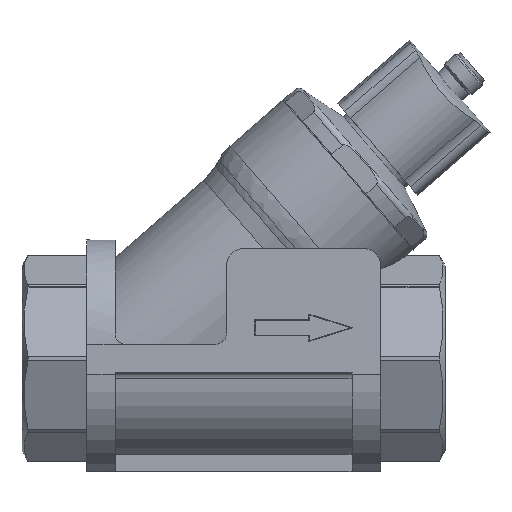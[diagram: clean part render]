
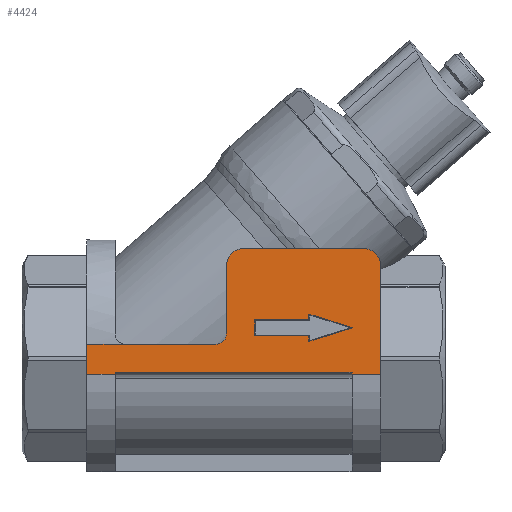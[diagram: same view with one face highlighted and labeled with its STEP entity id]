
A CAD part, top view. The second image highlights one B-rep face of the part: STEP entity #4424.
In plain terms, the highlighted planar face has unit normal (0, 0, 1).
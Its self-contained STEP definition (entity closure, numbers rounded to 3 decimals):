
#59=PLANE('',#4692);
#211=LINE('',#5882,#426);
#242=LINE('',#6139,#457);
#247=LINE('',#6170,#462);
#251=LINE('',#6202,#466);
#286=LINE('',#6516,#501);
#287=LINE('',#6519,#502);
#288=LINE('',#6521,#503);
#289=LINE('',#6523,#504);
#290=LINE('',#6525,#505);
#291=LINE('',#6527,#506);
#292=LINE('',#6529,#507);
#293=LINE('',#6530,#508);
#294=LINE('',#6533,#509);
#295=LINE('',#6535,#510);
#296=LINE('',#6537,#511);
#297=LINE('',#6538,#512);
#298=LINE('',#6540,#513);
#299=LINE('',#6541,#514);
#426=VECTOR('',#4947,1000.);
#457=VECTOR('',#5078,1000.);
#462=VECTOR('',#5095,1000.);
#466=VECTOR('',#5111,1000.);
#501=VECTOR('',#5252,1000.);
#502=VECTOR('',#5253,1000.);
#503=VECTOR('',#5254,1000.);
#504=VECTOR('',#5255,1000.);
#505=VECTOR('',#5256,1000.);
#506=VECTOR('',#5257,1000.);
#507=VECTOR('',#5258,1000.);
#508=VECTOR('',#5259,1000.);
#509=VECTOR('',#5260,1000.);
#510=VECTOR('',#5261,1000.);
#511=VECTOR('',#5262,1000.);
#512=VECTOR('',#5263,1000.);
#513=VECTOR('',#5264,1000.);
#514=VECTOR('',#5265,1000.);
#867=ORIENTED_EDGE('',*,*,#1788,.F.);
#868=ORIENTED_EDGE('',*,*,#1789,.F.);
#869=ORIENTED_EDGE('',*,*,#1790,.F.);
#870=ORIENTED_EDGE('',*,*,#1791,.F.);
#871=ORIENTED_EDGE('',*,*,#1792,.F.);
#872=ORIENTED_EDGE('',*,*,#1793,.F.);
#873=ORIENTED_EDGE('',*,*,#1794,.F.);
#874=ORIENTED_EDGE('',*,*,#1795,.F.);
#875=ORIENTED_EDGE('',*,*,#1796,.T.);
#876=ORIENTED_EDGE('',*,*,#1797,.F.);
#877=ORIENTED_EDGE('',*,*,#1798,.F.);
#878=ORIENTED_EDGE('',*,*,#1699,.T.);
#879=ORIENTED_EDGE('',*,*,#1689,.F.);
#880=ORIENTED_EDGE('',*,*,#1681,.T.);
#881=ORIENTED_EDGE('',*,*,#1679,.F.);
#882=ORIENTED_EDGE('',*,*,#1672,.F.);
#883=ORIENTED_EDGE('',*,*,#1669,.F.);
#884=ORIENTED_EDGE('',*,*,#1799,.T.);
#885=ORIENTED_EDGE('',*,*,#1800,.T.);
#886=ORIENTED_EDGE('',*,*,#1587,.F.);
#887=ORIENTED_EDGE('',*,*,#1801,.F.);
#1587=EDGE_CURVE('',#2057,#2059,#211,.T.);
#1669=EDGE_CURVE('',#2125,#2133,#242,.T.);
#1672=EDGE_CURVE('',#2133,#2135,#2407,.F.);
#1679=EDGE_CURVE('',#2135,#2141,#247,.T.);
#1681=EDGE_CURVE('',#2144,#2141,#2409,.F.);
#1689=EDGE_CURVE('',#2144,#2151,#251,.T.);
#1699=EDGE_CURVE('',#2160,#2151,#2412,.F.);
#1788=EDGE_CURVE('',#2238,#2239,#286,.T.);
#1789=EDGE_CURVE('',#2240,#2238,#287,.T.);
#1790=EDGE_CURVE('',#2241,#2240,#288,.T.);
#1791=EDGE_CURVE('',#2242,#2241,#289,.T.);
#1792=EDGE_CURVE('',#2243,#2242,#290,.T.);
#1793=EDGE_CURVE('',#2244,#2243,#291,.T.);
#1794=EDGE_CURVE('',#2239,#2244,#292,.T.);
#1795=EDGE_CURVE('',#2245,#2246,#293,.T.);
#1796=EDGE_CURVE('',#2245,#2247,#294,.T.);
#1797=EDGE_CURVE('',#2248,#2247,#295,.T.);
#1798=EDGE_CURVE('',#2160,#2248,#296,.T.);
#1799=EDGE_CURVE('',#2125,#2249,#297,.T.);
#1800=EDGE_CURVE('',#2249,#2059,#298,.T.);
#1801=EDGE_CURVE('',#2246,#2057,#299,.T.);
#2057=VERTEX_POINT('',#5880);
#2059=VERTEX_POINT('',#5883);
#2125=VERTEX_POINT('',#6102);
#2133=VERTEX_POINT('',#6136);
#2135=VERTEX_POINT('',#6142);
#2141=VERTEX_POINT('',#6167);
#2144=VERTEX_POINT('',#6179);
#2151=VERTEX_POINT('',#6203);
#2160=VERTEX_POINT('',#6240);
#2238=VERTEX_POINT('',#6517);
#2239=VERTEX_POINT('',#6518);
#2240=VERTEX_POINT('',#6520);
#2241=VERTEX_POINT('',#6522);
#2242=VERTEX_POINT('',#6524);
#2243=VERTEX_POINT('',#6526);
#2244=VERTEX_POINT('',#6528);
#2245=VERTEX_POINT('',#6531);
#2246=VERTEX_POINT('',#6532);
#2247=VERTEX_POINT('',#6534);
#2248=VERTEX_POINT('',#6536);
#2249=VERTEX_POINT('',#6539);
#2407=CIRCLE('',#4629,3.);
#2409=CIRCLE('',#4635,5.);
#2412=CIRCLE('',#4645,5.);
#2576=EDGE_LOOP('',(#867,#868,#869,#870,#871,#872,#873));
#2577=EDGE_LOOP('',(#874,#875,#876,#877,#878,#879,#880,#881,#882,#883,#884,
#885,#886,#887));
#2798=FACE_BOUND('',#2576,.T.);
#2799=FACE_BOUND('',#2577,.T.);
#4424=ADVANCED_FACE('',(#2798,#2799),#59,.F.);
#4629=AXIS2_PLACEMENT_3D('',#6150,#5082,#5083);
#4635=AXIS2_PLACEMENT_3D('',#6178,#5098,#5099);
#4645=AXIS2_PLACEMENT_3D('',#6239,#5125,#5126);
#4692=AXIS2_PLACEMENT_3D('',#6515,#5250,#5251);
#4947=DIRECTION('',(-1.,0.,0.));
#5078=DIRECTION('',(1.,0.,0.));
#5082=DIRECTION('',(0.,0.,-1.));
#5083=DIRECTION('',(-1.,0.,0.));
#5095=DIRECTION('',(0.,1.,0.));
#5098=DIRECTION('',(0.,0.,-1.));
#5099=DIRECTION('',(-1.,0.,0.));
#5111=DIRECTION('',(1.,0.,0.));
#5125=DIRECTION('',(0.,0.,-1.));
#5126=DIRECTION('',(-1.,0.,0.));
#5250=DIRECTION('',(0.,0.,-1.));
#5251=DIRECTION('',(-1.,0.,0.));
#5252=DIRECTION('',(1.,0.,0.));
#5253=DIRECTION('',(0.,-1.,0.));
#5254=DIRECTION('',(-1.,0.,0.));
#5255=DIRECTION('',(0.,-1.,0.));
#5256=DIRECTION('',(-0.954,0.301,0.));
#5257=DIRECTION('',(0.954,0.301,0.));
#5258=DIRECTION('',(0.,-1.,0.));
#5259=DIRECTION('',(-1.,0.,0.));
#5260=DIRECTION('',(0.,-1.,0.));
#5261=DIRECTION('',(-1.,0.,0.));
#5262=DIRECTION('',(0.,-1.,0.));
#5263=DIRECTION('',(-1.,0.,0.));
#5264=DIRECTION('',(0.,-1.,0.));
#5265=DIRECTION('',(0.,-1.,0.));
#5880=CARTESIAN_POINT('',(26.79,-4.541,30.));
#5882=CARTESIAN_POINT('',(102.95,-4.541,30.));
#5883=CARTESIAN_POINT('',(18.55,-4.541,30.));
#6102=CARTESIAN_POINT('',(29.7,4.,30.));
#6136=CARTESIAN_POINT('',(55.668,4.,30.));
#6139=CARTESIAN_POINT('',(102.95,4.,30.));
#6142=CARTESIAN_POINT('',(58.668,7.,30.));
#6150=CARTESIAN_POINT('',(55.668,7.,30.));
#6167=CARTESIAN_POINT('',(58.668,26.46,30.));
#6170=CARTESIAN_POINT('',(58.668,35.,30.));
#6178=CARTESIAN_POINT('',(63.668,26.46,30.));
#6179=CARTESIAN_POINT('',(63.668,31.46,30.));
#6202=CARTESIAN_POINT('',(102.95,31.46,30.));
#6203=CARTESIAN_POINT('',(97.95,31.46,30.));
#6239=CARTESIAN_POINT('',(97.95,26.46,30.));
#6240=CARTESIAN_POINT('',(102.95,26.46,30.));
#6515=CARTESIAN_POINT('',(102.95,35.,30.));
#6516=CARTESIAN_POINT('',(66.8,6.465,30.));
#6517=CARTESIAN_POINT('',(66.8,6.465,30.));
#6518=CARTESIAN_POINT('',(82.36,6.465,30.));
#6519=CARTESIAN_POINT('',(66.8,11.035,30.));
#6520=CARTESIAN_POINT('',(66.8,11.035,30.));
#6521=CARTESIAN_POINT('',(82.36,11.035,30.));
#6522=CARTESIAN_POINT('',(82.36,11.035,30.));
#6523=CARTESIAN_POINT('',(82.36,12.67,30.));
#6524=CARTESIAN_POINT('',(82.36,12.67,30.));
#6525=CARTESIAN_POINT('',(94.8,8.75,30.));
#6526=CARTESIAN_POINT('',(94.8,8.75,30.));
#6527=CARTESIAN_POINT('',(82.36,4.83,30.));
#6528=CARTESIAN_POINT('',(82.36,4.83,30.));
#6529=CARTESIAN_POINT('',(82.36,6.465,30.));
#6530=CARTESIAN_POINT('',(102.95,-4.,30.));
#6531=CARTESIAN_POINT('',(94.71,-4.,30.));
#6532=CARTESIAN_POINT('',(26.79,-4.,30.));
#6533=CARTESIAN_POINT('',(94.71,35.,30.));
#6534=CARTESIAN_POINT('',(94.71,-4.541,30.));
#6535=CARTESIAN_POINT('',(102.95,-4.541,30.));
#6536=CARTESIAN_POINT('',(102.95,-4.541,30.));
#6537=CARTESIAN_POINT('',(102.95,35.,30.));
#6538=CARTESIAN_POINT('',(33.55,4.,30.));
#6539=CARTESIAN_POINT('',(18.55,4.,30.));
#6540=CARTESIAN_POINT('',(18.55,35.,30.));
#6541=CARTESIAN_POINT('',(26.79,35.,30.));
